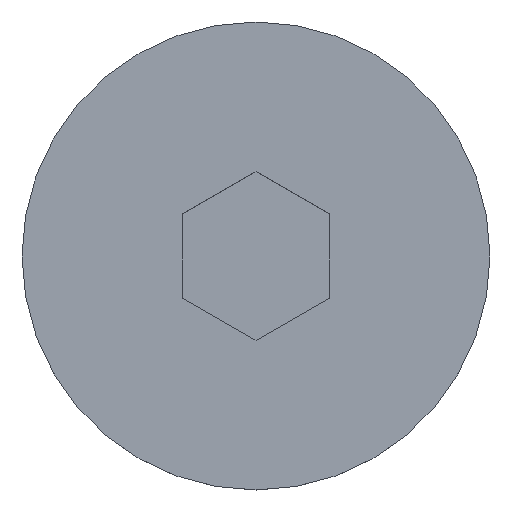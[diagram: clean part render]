
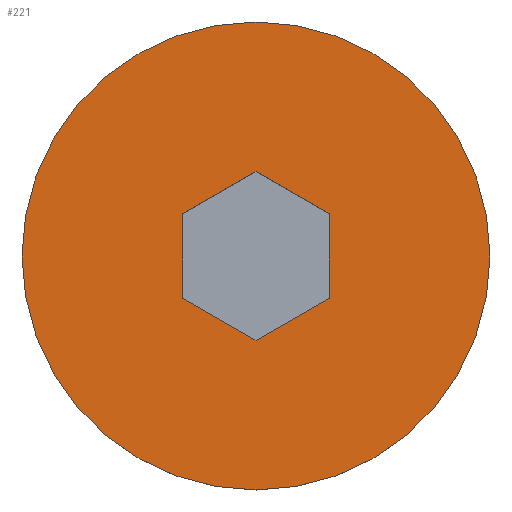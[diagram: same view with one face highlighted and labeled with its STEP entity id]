
A CAD part, top view. The second image highlights one B-rep face of the part: STEP entity #221.
In plain terms, the highlighted planar face has unit normal (0, 0, 1).
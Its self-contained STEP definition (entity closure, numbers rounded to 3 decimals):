
#5 = VERTEX_POINT ( 'NONE', #36 ) ;
#13 = EDGE_CURVE ( 'NONE', #5, #151, #71, .T. ) ;
#20 = LINE ( 'NONE', #370, #194 ) ;
#29 = VERTEX_POINT ( 'NONE', #287 ) ;
#36 = CARTESIAN_POINT ( 'NONE',  ( 3., -1.732, 5.22 ) ) ;
#44 = PLANE ( 'NONE',  #80 ) ;
#53 = ORIENTED_EDGE ( 'NONE', *, *, #13, .F. ) ;
#67 = DIRECTION ( 'NONE',  ( 0., 1., 0. ) ) ;
#71 = LINE ( 'NONE', #344, #435 ) ;
#78 = LINE ( 'NONE', #189, #205 ) ;
#80 = AXIS2_PLACEMENT_3D ( 'NONE', #113, #219, #298 ) ;
#91 = CARTESIAN_POINT ( 'NONE',  ( 0., -3.464, 5.22 ) ) ;
#92 = CIRCLE ( 'NONE', #372, 9.61 ) ;
#93 = CARTESIAN_POINT ( 'NONE',  ( 0., 0., 5.22 ) ) ;
#107 = CARTESIAN_POINT ( 'NONE',  ( 3., 1.732, 5.22 ) ) ;
#110 = VECTOR ( 'NONE', #203, 1000. ) ;
#112 = CARTESIAN_POINT ( 'NONE',  ( -3., 1.732, 5.22 ) ) ;
#113 = CARTESIAN_POINT ( 'NONE',  ( -9.61, 0., 5.22 ) ) ;
#115 = ORIENTED_EDGE ( 'NONE', *, *, #379, .F. ) ;
#127 = VERTEX_POINT ( 'NONE', #112 ) ;
#131 = DIRECTION ( 'NONE',  ( -1., 0., 0. ) ) ;
#143 = DIRECTION ( 'NONE',  ( 0.866, -0.5, 0. ) ) ;
#151 = VERTEX_POINT ( 'NONE', #107 ) ;
#169 = EDGE_CURVE ( 'NONE', #376, #397, #318, .T. ) ;
#189 = CARTESIAN_POINT ( 'NONE',  ( 0., 3.464, 5.22 ) ) ;
#190 = EDGE_CURVE ( 'NONE', #151, #384, #283, .T. ) ;
#192 = DIRECTION ( 'NONE',  ( 0., -1., 0. ) ) ;
#194 = VECTOR ( 'NONE', #192, 1000. ) ;
#196 = DIRECTION ( 'NONE',  ( -1., 0., 0. ) ) ;
#197 = DIRECTION ( 'NONE',  ( 0., 0., -1. ) ) ;
#201 = CARTESIAN_POINT ( 'NONE',  ( 0., -3.464, 5.22 ) ) ;
#203 = DIRECTION ( 'NONE',  ( 0.866, 0.5, 0. ) ) ;
#204 = EDGE_LOOP ( 'NONE', ( #446, #53, #115, #438, #240, #226 ) ) ;
#205 = VECTOR ( 'NONE', #432, 1000. ) ;
#214 = ORIENTED_EDGE ( 'NONE', *, *, #425, .F. ) ;
#219 = DIRECTION ( 'NONE',  ( 0., 0., 1. ) ) ;
#221 = ADVANCED_FACE ( 'NONE', ( #439, #253 ), #44, .T. ) ;
#226 = ORIENTED_EDGE ( 'NONE', *, *, #310, .F. ) ;
#234 = VECTOR ( 'NONE', #143, 1000. ) ;
#240 = ORIENTED_EDGE ( 'NONE', *, *, #354, .F. ) ;
#247 = VERTEX_POINT ( 'NONE', #264 ) ;
#248 = CARTESIAN_POINT ( 'NONE',  ( -3., -1.732, 5.22 ) ) ;
#253 = FACE_OUTER_BOUND ( 'NONE', #346, .T. ) ;
#261 = CIRCLE ( 'NONE', #441, 9.61 ) ;
#264 = CARTESIAN_POINT ( 'NONE',  ( 9.61, 0., 5.22 ) ) ;
#283 = LINE ( 'NONE', #358, #353 ) ;
#287 = CARTESIAN_POINT ( 'NONE',  ( -9.61, 0., 5.22 ) ) ;
#298 = DIRECTION ( 'NONE',  ( 1., 0., 0. ) ) ;
#306 = CARTESIAN_POINT ( 'NONE',  ( 0., 0., 5.22 ) ) ;
#308 = CARTESIAN_POINT ( 'NONE',  ( -3., -1.732, 5.22 ) ) ;
#310 = EDGE_CURVE ( 'NONE', #384, #127, #78, .T. ) ;
#318 = LINE ( 'NONE', #248, #234 ) ;
#344 = CARTESIAN_POINT ( 'NONE',  ( 3., -1.732, 5.22 ) ) ;
#346 = EDGE_LOOP ( 'NONE', ( #434, #214 ) ) ;
#348 = LINE ( 'NONE', #201, #110 ) ;
#353 = VECTOR ( 'NONE', #393, 1000. ) ;
#354 = EDGE_CURVE ( 'NONE', #127, #376, #20, .T. ) ;
#358 = CARTESIAN_POINT ( 'NONE',  ( 3., 1.732, 5.22 ) ) ;
#370 = CARTESIAN_POINT ( 'NONE',  ( -3., 1.732, 5.22 ) ) ;
#371 = DIRECTION ( 'NONE',  ( 0., 0., -1. ) ) ;
#372 = AXIS2_PLACEMENT_3D ( 'NONE', #306, #371, #196 ) ;
#376 = VERTEX_POINT ( 'NONE', #308 ) ;
#379 = EDGE_CURVE ( 'NONE', #397, #5, #348, .T. ) ;
#384 = VERTEX_POINT ( 'NONE', #447 ) ;
#393 = DIRECTION ( 'NONE',  ( -0.866, 0.5, 0. ) ) ;
#397 = VERTEX_POINT ( 'NONE', #91 ) ;
#404 = EDGE_CURVE ( 'NONE', #29, #247, #92, .T. ) ;
#425 = EDGE_CURVE ( 'NONE', #247, #29, #261, .T. ) ;
#432 = DIRECTION ( 'NONE',  ( -0.866, -0.5, 0. ) ) ;
#434 = ORIENTED_EDGE ( 'NONE', *, *, #404, .F. ) ;
#435 = VECTOR ( 'NONE', #67, 1000. ) ;
#438 = ORIENTED_EDGE ( 'NONE', *, *, #169, .F. ) ;
#439 = FACE_BOUND ( 'NONE', #204, .T. ) ;
#441 = AXIS2_PLACEMENT_3D ( 'NONE', #93, #197, #131 ) ;
#446 = ORIENTED_EDGE ( 'NONE', *, *, #190, .F. ) ;
#447 = CARTESIAN_POINT ( 'NONE',  ( 0., 3.464, 5.22 ) ) ;
